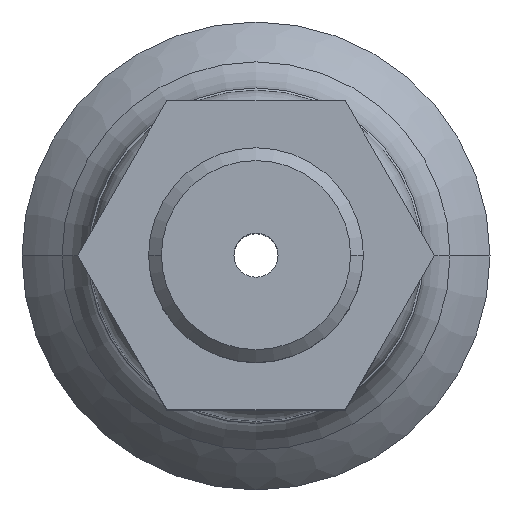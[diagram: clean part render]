
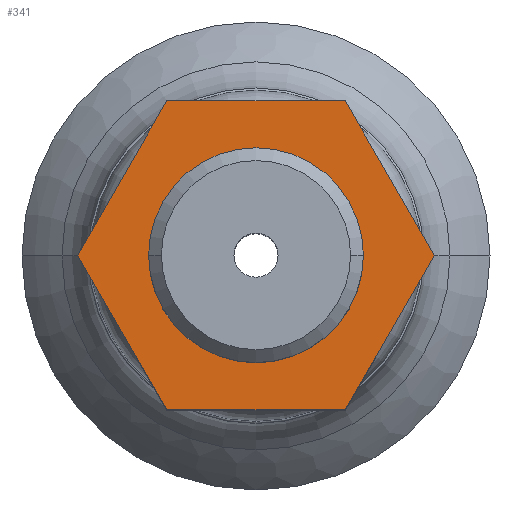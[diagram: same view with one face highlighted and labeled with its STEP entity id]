
A CAD part, top view. The second image highlights one B-rep face of the part: STEP entity #341.
In plain terms, the highlighted planar face has unit normal (0, 0, 1).
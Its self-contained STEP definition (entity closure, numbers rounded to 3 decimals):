
#23 = ORIENTED_EDGE ( 'NONE', *, *, #655, .T. ) ;
#26 = CARTESIAN_POINT ( 'NONE',  ( -8.083, 0., 15. ) ) ;
#39 = EDGE_CURVE ( 'NONE', #517, #565, #1254, .T. ) ;
#50 = CARTESIAN_POINT ( 'NONE',  ( -4.041, 7., 15. ) ) ;
#52 = CIRCLE ( 'NONE', #227, 4.864 ) ;
#53 = VECTOR ( 'NONE', #533, 1000. ) ;
#76 = ORIENTED_EDGE ( 'NONE', *, *, #1248, .T. ) ;
#99 = ORIENTED_EDGE ( 'NONE', *, *, #1111, .F. ) ;
#133 = DIRECTION ( 'NONE',  ( -0.5, 0.866, 0. ) ) ;
#146 = CARTESIAN_POINT ( 'NONE',  ( 4.041, -7., 15. ) ) ;
#160 = ORIENTED_EDGE ( 'NONE', *, *, #1164, .T. ) ;
#163 = DIRECTION ( 'NONE',  ( 0.5, 0.866, 0. ) ) ;
#170 = VERTEX_POINT ( 'NONE', #642 ) ;
#197 = VERTEX_POINT ( 'NONE', #556 ) ;
#204 = CARTESIAN_POINT ( 'NONE',  ( -4.864, 0., 15. ) ) ;
#226 = CARTESIAN_POINT ( 'NONE',  ( 5.25, -7., 15. ) ) ;
#227 = AXIS2_PLACEMENT_3D ( 'NONE', #1256, #958, #693 ) ;
#251 = DIRECTION ( 'NONE',  ( -0.5, -0.866, 0. ) ) ;
#252 = CIRCLE ( 'NONE', #482, 4.864 ) ;
#268 = CARTESIAN_POINT ( 'NONE',  ( -8.083, 0., 15. ) ) ;
#314 = VERTEX_POINT ( 'NONE', #268 ) ;
#317 = LINE ( 'NONE', #372, #964 ) ;
#336 = DIRECTION ( 'NONE',  ( 0.5, -0.866, 0. ) ) ;
#341 = ADVANCED_FACE ( 'NONE', ( #396, #492 ), #1056, .T. ) ;
#372 = CARTESIAN_POINT ( 'NONE',  ( 5.25, 7., 15. ) ) ;
#396 = FACE_BOUND ( 'NONE', #667, .T. ) ;
#421 = VERTEX_POINT ( 'NONE', #204 ) ;
#439 = CARTESIAN_POINT ( 'NONE',  ( -4.041, -7., 15. ) ) ;
#470 = ORIENTED_EDGE ( 'NONE', *, *, #1181, .T. ) ;
#482 = AXIS2_PLACEMENT_3D ( 'NONE', #1158, #1251, #1263 ) ;
#492 = FACE_OUTER_BOUND ( 'NONE', #800, .T. ) ;
#511 = VERTEX_POINT ( 'NONE', #439 ) ;
#517 = VERTEX_POINT ( 'NONE', #873 ) ;
#532 = EDGE_CURVE ( 'NONE', #197, #421, #252, .T. ) ;
#533 = DIRECTION ( 'NONE',  ( 1., 0., 0. ) ) ;
#556 = CARTESIAN_POINT ( 'NONE',  ( 4.864, 0., 15. ) ) ;
#565 = VERTEX_POINT ( 'NONE', #798 ) ;
#584 = VECTOR ( 'NONE', #133, 1000. ) ;
#628 = ORIENTED_EDGE ( 'NONE', *, *, #39, .T. ) ;
#638 = EDGE_CURVE ( 'NONE', #1103, #170, #317, .T. ) ;
#642 = CARTESIAN_POINT ( 'NONE',  ( -4.041, 7., 15. ) ) ;
#655 = EDGE_CURVE ( 'NONE', #565, #1103, #1060, .T. ) ;
#667 = EDGE_LOOP ( 'NONE', ( #1176, #99 ) ) ;
#680 = DIRECTION ( 'NONE',  ( -1., 0., 0. ) ) ;
#693 = DIRECTION ( 'NONE',  ( 1., 0., 0. ) ) ;
#710 = VECTOR ( 'NONE', #251, 1000. ) ;
#776 = DIRECTION ( 'NONE',  ( 0., 0., 1. ) ) ;
#798 = CARTESIAN_POINT ( 'NONE',  ( 8.083, 0., 15. ) ) ;
#800 = EDGE_LOOP ( 'NONE', ( #628, #23, #1012, #470, #160, #76 ) ) ;
#846 = CARTESIAN_POINT ( 'NONE',  ( 8.083, 0., 15. ) ) ;
#856 = LINE ( 'NONE', #26, #886 ) ;
#873 = CARTESIAN_POINT ( 'NONE',  ( 4.041, -7., 15. ) ) ;
#886 = VECTOR ( 'NONE', #336, 1000. ) ;
#958 = DIRECTION ( 'NONE',  ( 0., 0., 1. ) ) ;
#963 = CARTESIAN_POINT ( 'NONE',  ( 5.25, 0., 15. ) ) ;
#964 = VECTOR ( 'NONE', #680, 1000. ) ;
#982 = LINE ( 'NONE', #50, #710 ) ;
#1005 = VECTOR ( 'NONE', #163, 1000. ) ;
#1012 = ORIENTED_EDGE ( 'NONE', *, *, #638, .T. ) ;
#1056 = PLANE ( 'NONE',  #1210 ) ;
#1060 = LINE ( 'NONE', #846, #584 ) ;
#1064 = DIRECTION ( 'NONE',  ( 1., 0., 0. ) ) ;
#1066 = LINE ( 'NONE', #226, #53 ) ;
#1103 = VERTEX_POINT ( 'NONE', #1298 ) ;
#1111 = EDGE_CURVE ( 'NONE', #421, #197, #52, .T. ) ;
#1158 = CARTESIAN_POINT ( 'NONE',  ( 0., 0., 15. ) ) ;
#1164 = EDGE_CURVE ( 'NONE', #314, #511, #856, .T. ) ;
#1176 = ORIENTED_EDGE ( 'NONE', *, *, #532, .F. ) ;
#1181 = EDGE_CURVE ( 'NONE', #170, #314, #982, .T. ) ;
#1210 = AXIS2_PLACEMENT_3D ( 'NONE', #963, #776, #1064 ) ;
#1248 = EDGE_CURVE ( 'NONE', #511, #517, #1066, .T. ) ;
#1251 = DIRECTION ( 'NONE',  ( 0., 0., 1. ) ) ;
#1254 = LINE ( 'NONE', #146, #1005 ) ;
#1256 = CARTESIAN_POINT ( 'NONE',  ( 0., 0., 15. ) ) ;
#1263 = DIRECTION ( 'NONE',  ( 1., 0., 0. ) ) ;
#1298 = CARTESIAN_POINT ( 'NONE',  ( 4.041, 7., 15. ) ) ;
